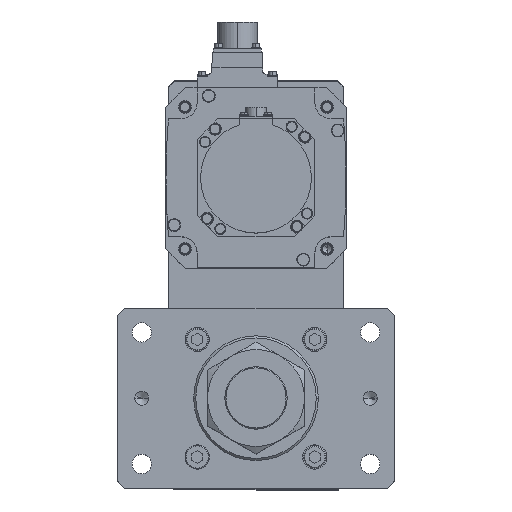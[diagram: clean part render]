
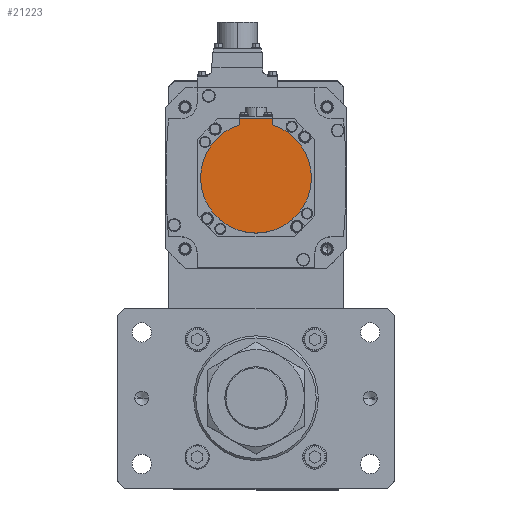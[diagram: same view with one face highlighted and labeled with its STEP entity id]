
A CAD part, top view. The second image highlights one B-rep face of the part: STEP entity #21223.
In plain terms, the highlighted planar face has unit normal (0, 0, 1) as drawn and (0, 0, -1) by its records, which use the part's own axes.
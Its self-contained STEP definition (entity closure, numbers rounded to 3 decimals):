
#294 = CIRCLE ( 'NONE', #23119, 40. ) ;
#453 = VERTEX_POINT ( 'NONE', #19343 ) ;
#776 = DIRECTION ( 'NONE',  ( -1., 0., 0. ) ) ;
#926 = CARTESIAN_POINT ( 'NONE',  ( 12., -38.158, -146.5 ) ) ;
#1631 = ORIENTED_EDGE ( 'NONE', *, *, #32684, .T. ) ;
#2428 = DIRECTION ( 'NONE',  ( 1., 0., 0. ) ) ;
#3424 = AXIS2_PLACEMENT_3D ( 'NONE', #13792, #29753, #8040 ) ;
#3836 = ORIENTED_EDGE ( 'NONE', *, *, #33167, .F. ) ;
#4420 = ORIENTED_EDGE ( 'NONE', *, *, #11182, .F. ) ;
#5021 = CIRCLE ( 'NONE', #17005, 40. ) ;
#5560 = DIRECTION ( 'NONE',  ( 0., 0., 1. ) ) ;
#5757 = VECTOR ( 'NONE', #9262, 1000. ) ;
#5847 = VERTEX_POINT ( 'NONE', #13705 ) ;
#7164 = LINE ( 'NONE', #8870, #20604 ) ;
#8040 = DIRECTION ( 'NONE',  ( 1., 0., 0. ) ) ;
#8870 = CARTESIAN_POINT ( 'NONE',  ( 0., -42.5, -146.5 ) ) ;
#9262 = DIRECTION ( 'NONE',  ( 0., 1., 0. ) ) ;
#11182 = EDGE_CURVE ( 'NONE', #453, #28847, #13538, .T. ) ;
#11231 = LINE ( 'NONE', #27815, #5757 ) ;
#12982 = DIRECTION ( 'NONE',  ( 0., 0., 1. ) ) ;
#13264 = ORIENTED_EDGE ( 'NONE', *, *, #18007, .F. ) ;
#13405 = CARTESIAN_POINT ( 'NONE',  ( 0., -1.249, -146.5 ) ) ;
#13538 = LINE ( 'NONE', #23976, #29414 ) ;
#13705 = CARTESIAN_POINT ( 'NONE',  ( -12., -42.5, -146.5 ) ) ;
#13792 = CARTESIAN_POINT ( 'NONE',  ( 0., 0., -146.5 ) ) ;
#15816 = PLANE ( 'NONE',  #24151 ) ;
#16744 = CARTESIAN_POINT ( 'NONE',  ( 0., 0., -146.5 ) ) ;
#16850 = DIRECTION ( 'NONE',  ( 1., 0., 0. ) ) ;
#17005 = AXIS2_PLACEMENT_3D ( 'NONE', #21455, #12982, #2428 ) ;
#17651 = VERTEX_POINT ( 'NONE', #19812 ) ;
#18007 = EDGE_CURVE ( 'NONE', #28847, #17651, #29446, .T. ) ;
#19339 = VERTEX_POINT ( 'NONE', #32555 ) ;
#19343 = CARTESIAN_POINT ( 'NONE',  ( 12., -42.5, -146.5 ) ) ;
#19746 = EDGE_LOOP ( 'NONE', ( #1631, #3836, #22004, #13264, #4420, #27387 ) ) ;
#19812 = CARTESIAN_POINT ( 'NONE',  ( 40., 0., -146.5 ) ) ;
#20604 = VECTOR ( 'NONE', #776, 1000. ) ;
#20669 = EDGE_CURVE ( 'NONE', #17651, #19339, #5021, .T. ) ;
#21223 = ADVANCED_FACE ( 'NONE', ( #21600 ), #15816, .F. ) ;
#21455 = CARTESIAN_POINT ( 'NONE',  ( 0., 0., -146.5 ) ) ;
#21600 = FACE_OUTER_BOUND ( 'NONE', #19746, .T. ) ;
#22004 = ORIENTED_EDGE ( 'NONE', *, *, #20669, .F. ) ;
#23119 = AXIS2_PLACEMENT_3D ( 'NONE', #16744, #27778, #16850 ) ;
#23976 = CARTESIAN_POINT ( 'NONE',  ( 12., -1.249, -146.5 ) ) ;
#24151 = AXIS2_PLACEMENT_3D ( 'NONE', #13405, #5560, #29283 ) ;
#25671 = VERTEX_POINT ( 'NONE', #28128 ) ;
#27387 = ORIENTED_EDGE ( 'NONE', *, *, #30723, .T. ) ;
#27778 = DIRECTION ( 'NONE',  ( 0., 0., 1. ) ) ;
#27815 = CARTESIAN_POINT ( 'NONE',  ( -12., -40.329, -146.5 ) ) ;
#28128 = CARTESIAN_POINT ( 'NONE',  ( -12., -38.158, -146.5 ) ) ;
#28847 = VERTEX_POINT ( 'NONE', #926 ) ;
#29283 = DIRECTION ( 'NONE',  ( 1., 0., 0. ) ) ;
#29309 = DIRECTION ( 'NONE',  ( 0., 1., 0. ) ) ;
#29414 = VECTOR ( 'NONE', #29309, 1000. ) ;
#29446 = CIRCLE ( 'NONE', #3424, 40. ) ;
#29753 = DIRECTION ( 'NONE',  ( 0., 0., 1. ) ) ;
#30723 = EDGE_CURVE ( 'NONE', #453, #5847, #7164, .T. ) ;
#32555 = CARTESIAN_POINT ( 'NONE',  ( -40., 0., -146.5 ) ) ;
#32684 = EDGE_CURVE ( 'NONE', #5847, #25671, #11231, .T. ) ;
#33167 = EDGE_CURVE ( 'NONE', #19339, #25671, #294, .T. ) ;
